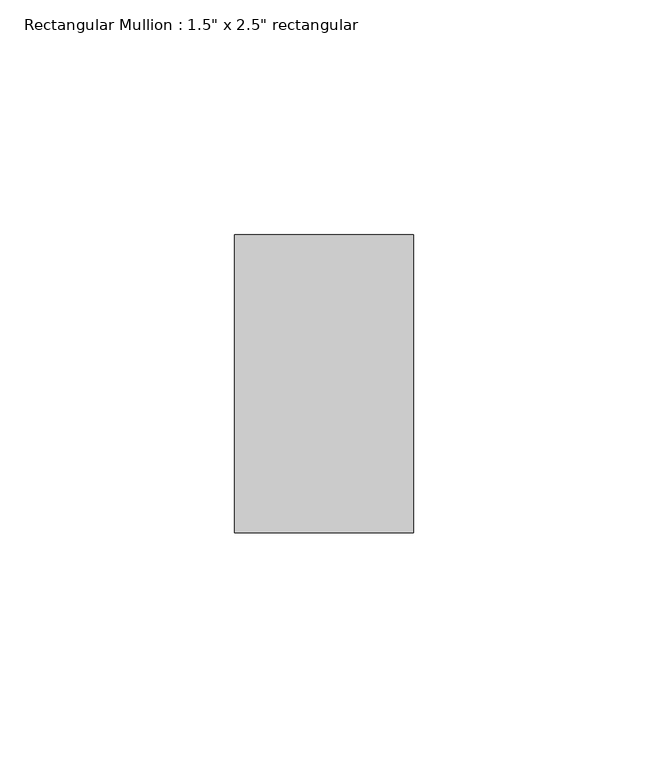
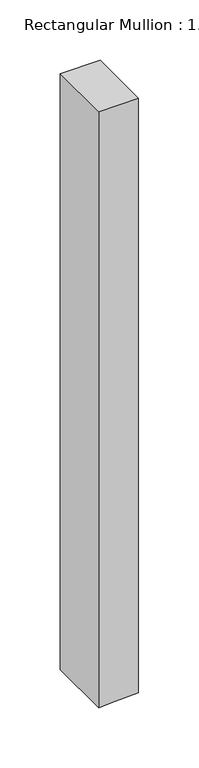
"""IFC4 building model written with IfcOpenShell, lengths in millimetres: member geometry."""

from ifc_helpers import new_model, si_unit, frame, origin, place, context, project, spatial, polyline, outline, extrude, source, transform, mapped, element, save


def member_4b96d913(model_context):
    return source(origin(), model_context, "Body", "SweptSolid", [
        extrude(outline(polyline([(0.0, 19.05), (0.0, -19.05), (-602.9911817, -19.05), (-601.8322777, -3.2762268), (-601.1651695, 19.05), (0.0, 19.05)])), frame((0.0, -31.75, 0.0), z_axis=(0.0, 1.0, 0.0), x_axis=(0.0, 0.0, 1.0)), (0.0, 0.0, 1.0), 63.5),
    ])


if __name__ == "__main__":
    model = new_model("IFC4")
    model_context = context("Model", 3, world=origin())
    ifc_project = project(units=[si_unit("LENGTHUNIT", "METRE", prefix="MILLI")], contexts=[model_context])
    site = spatial("IfcSite", under=ifc_project)
    building = spatial("IfcBuilding", under=site)
    placement = place(None, origin())
    member_shape = member_4b96d913(model_context)
    element("IfcMember", 1, ObjectType="Rectangular Mullion : 1.5\" x 2.5\" rectangular", at=placement, inside=building, context=model_context, shape_type="MappedRepresentation", body=[
        mapped(member_shape, transform((0.0, 0.0, 0.0), x_axis=(1.0, 0.0, 0.0), y_axis=(0.0, 1.0, 0.0), z_axis=(0.0, 0.0, 1.0))),
    ])
    save(model, "model.ifc")
